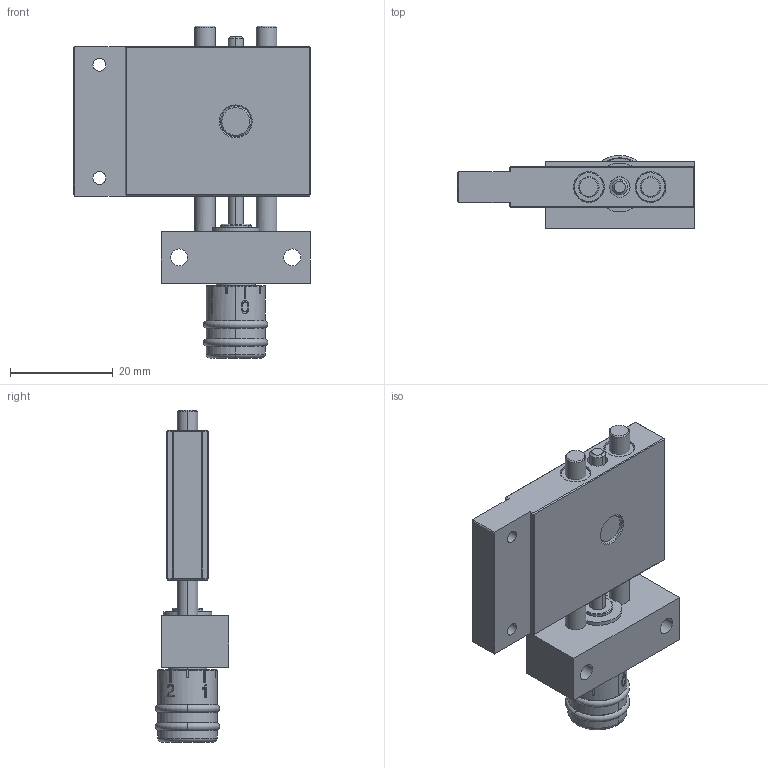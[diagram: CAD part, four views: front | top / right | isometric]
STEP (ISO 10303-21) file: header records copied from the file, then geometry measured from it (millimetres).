
FILE_DESCRIPTION (( 'STEP AP203' ), '1' );
FILE_NAME ('KT1104-KR-SK-Kreuztisch.STEP', '2016-01-15T16:44:22', ( '' ), ( '' ), 'SwSTEP 2.0', 'SolidWorks 2014', '' );
FILE_SCHEMA (( 'CONFIG_CONTROL_DESIGN' ));
Length unit declared in the file: millimetre
Products named in the file (3): KT04-000-02-K-Schlitten-komplett; KT1104-KR-SK-Kreuztisch; PT1104-000-01-Festteil
Assembly tree (2 placements, depth 2):
  KT1104-KR-SK-Kreuztisch
    PT1104-000-01-Festteil
    KT04-000-02-K-Schlitten-komplett
Bounding box: 46 x 14.25 x 64.54 mm (x, y, z)
Volume: 14490.4 mm3; surface area: 9852.1 mm2
Topology: 2 solids, 4 shells, 398 faces, 963 edges, 610 vertices
Faces by surface type: plane 151, cylinder 112, cone 74, bspline 41, torus 18, sphere 2
Entity records: 17191 total; most frequent: CARTESIAN_POINT 7634, DIRECTION 1931, ORIENTED_EDGE 1926, EDGE_CURVE 963, AXIS2_PLACEMENT_3D 770, VERTEX_POINT 610, EDGE_LOOP 453, CIRCLE 408
